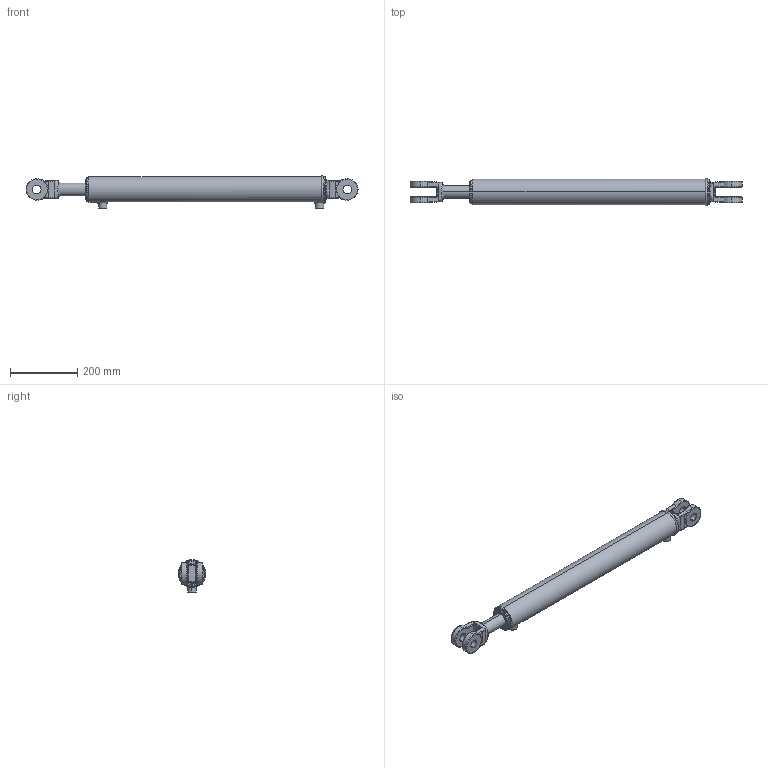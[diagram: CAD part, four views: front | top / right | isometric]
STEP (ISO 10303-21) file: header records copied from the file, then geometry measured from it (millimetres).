
FILE_DESCRIPTION (( 'STEP AP203' ), '1' );
FILE_NAME ('CL-CL250150x610 (24).STEP', '2014-11-21T02:40:29', ( '' ), ( '' ), 'SwSTEP 2.0', 'SolidWorks 2014', '' );
FILE_SCHEMA (( 'CONFIG_CONTROL_DESIGN' ));
Length unit declared in the file: millimetre
Products named in the file (5): SPARE 6_24-xx; CL-CL250150x610 (24); CL-CL250150x610 (24) body; 2.5 inch ext circlip; CL-CL250150x610 (24) BODY
Assembly tree (4 placements, depth 3):
  CL-CL250150x610 (24)
    CL-CL250150x610 (24) BODY
      CL-CL250150x610 (24) body
      2.5 inch ext circlip
    SPARE 6_24-xx
Bounding box: 984.39 x 82.17 x 97.19 mm (x, y, z)
Volume: 4260073.4 mm3; surface area: 349640.4 mm2
Topology: 3 solids, 3 shells, 210 faces, 512 edges, 315 vertices
Faces by surface type: cylinder 91, bspline 59, plane 37, torus 15, cone 8
Entity records: 11387 total; most frequent: CARTESIAN_POINT 6222, ORIENTED_EDGE 1016, DIRECTION 943, EDGE_CURVE 508, AXIS2_PLACEMENT_3D 394, VERTEX_POINT 315, CIRCLE 235, EDGE_LOOP 233
